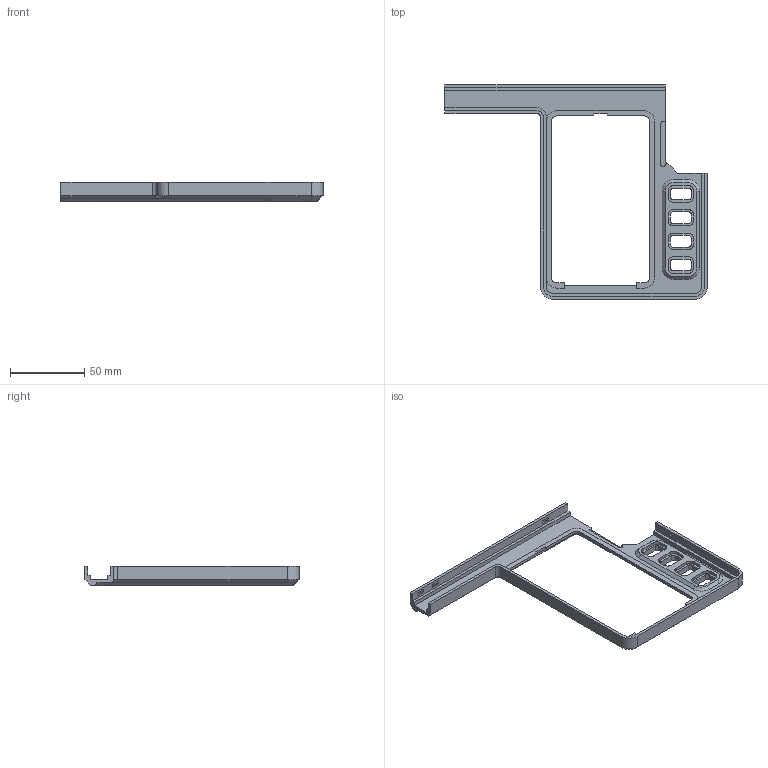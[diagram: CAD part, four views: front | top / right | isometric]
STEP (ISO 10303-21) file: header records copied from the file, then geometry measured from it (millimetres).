
FILE_DESCRIPTION(/* description */ ('STEP AP242','CAx-IF Rec.Pracs.---Representation and Presentation of Product Manufacturing Information (PMI)---4.0---2014-10-13','CAx-IF Rec.Pracs.---3D Tessellated Geometry---0.4---2014-09-14','2;1'),/* implementation_level */ '2;1');
FILE_NAME(/* name */ '687e6b4bf344454910d47dc0',/* time_stamp */ '2025-07-21T16:31:08Z',/* author */ (''),/* organization */ (''),/* preprocessor_version */ 'ST-DEVELOPER v20',/* originating_system */ 'ONSHAPE BY PTC INC, 1.201',/* authorisation */ ' ');
FILE_SCHEMA (('AP242_MANAGED_MODEL_BASED_3D_ENGINEERING_MIM_LF { 1 0 10303 442 1 1 4 }'));
Length unit declared in the file: metre
Products named in the file (1): Left Housing Cover
Bounding box: 177.12 x 144.75 x 12.9 mm (x, y, z)
Volume: 35420.6 mm3; surface area: 29441.1 mm2
Topology: 1 solids, 1 shells, 216 faces, 593 edges, 393 vertices
Faces by surface type: plane 150, cylinder 58, cone 8
Entity records: 6872 total; most frequent: CARTESIAN_POINT 1203, ORIENTED_EDGE 1186, DIRECTION 1156, EDGE_CURVE 593, LINE 464, VECTOR 464, VERTEX_POINT 393, AXIS2_PLACEMENT_3D 346
